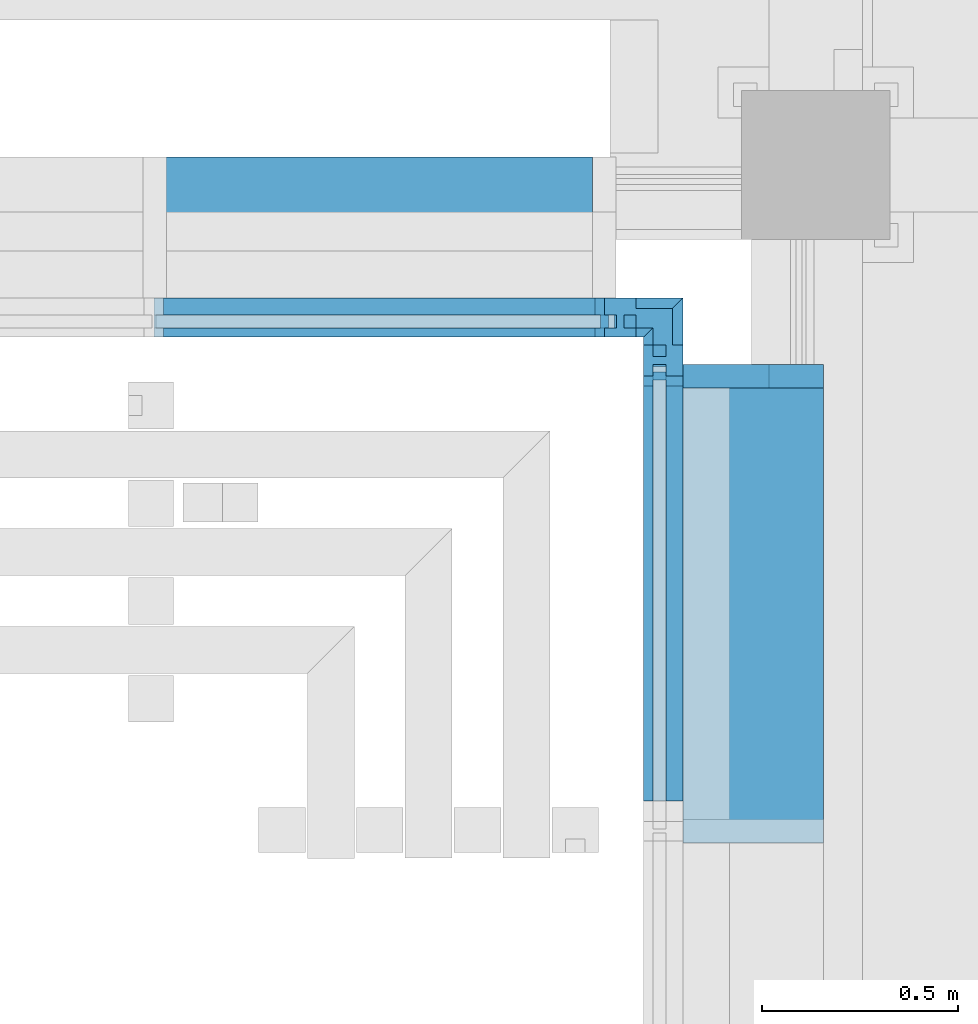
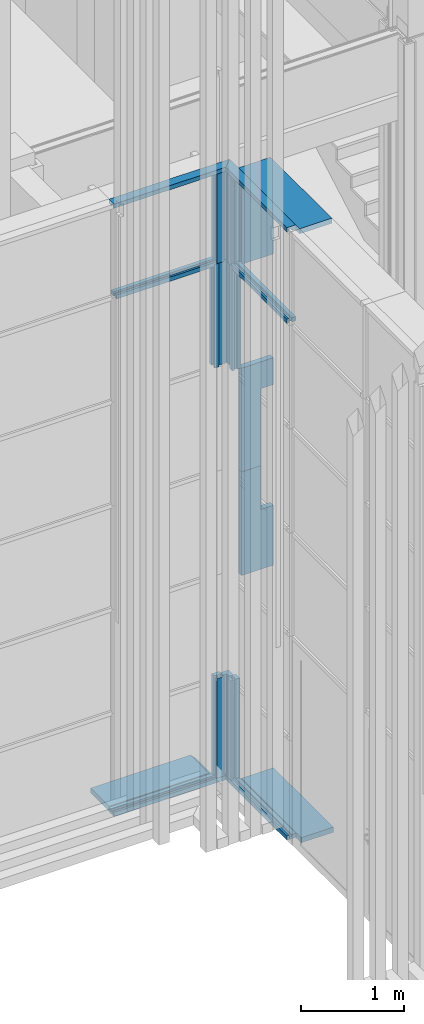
# One storey, part 73 of 260: 15 members, 3 elements without a shape of their own.
"""IFC2X3 building model written with IfcOpenShell, lengths in millimetres."""

from ifc_helpers import new_model, entity, si_unit, converted_unit, derived_unit, money_unit, direction, frame, origin_with_axes, place, context, subcontext, project, spatial, faceted_brep, material, type_object, element, aggregate, save


model = new_model("IFC2X3")

# Units and contexts
model_context = context("Model", 3, precision=0.01, world=origin_with_axes(), true_north=direction((0.0, 1.0)))
body_context = subcontext(model_context, "Body", "Model", "MODEL_VIEW")
ifc_project = project(units=[si_unit("LENGTHUNIT", "METRE", prefix="MILLI"), si_unit("AREAUNIT", "SQUARE_METRE"), si_unit("VOLUMEUNIT", "CUBIC_METRE"), converted_unit("PLANEANGLEUNIT", "DEGREE", entity("IfcPlaneAngleMeasure", 0.0174532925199), si_unit("PLANEANGLEUNIT", "RADIAN"), dimensions=[0, 0, 0, 0, 0, 0, 0]), money_unit("EUR"), converted_unit("TIMEUNIT", "Year", entity("IfcTimeMeasure", 31556926.0), si_unit("TIMEUNIT", "SECOND"), dimensions=[0, 0, 1, 0, 0, 0, 0]), si_unit("MASSUNIT", "GRAM", prefix="KILO"), si_unit("THERMODYNAMICTEMPERATUREUNIT", "DEGREE_CELSIUS"), si_unit("LUMINOUSINTENSITYUNIT", "LUMEN"), si_unit("ENERGYUNIT", "JOULE", prefix="MEGA"), derived_unit("THERMALCONDUCTANCEUNIT", [(si_unit("POWERUNIT", "WATT"), 1), (si_unit("LENGTHUNIT", "METRE"), -1), (si_unit("THERMODYNAMICTEMPERATUREUNIT", "KELVIN"), -1)]), derived_unit("SPECIFICHEATCAPACITYUNIT", [(si_unit("ENERGYUNIT", "JOULE"), 1), (si_unit("MASSUNIT", "GRAM", prefix="KILO"), -1), (si_unit("THERMODYNAMICTEMPERATUREUNIT", "KELVIN"), -1)]), derived_unit("MASSDENSITYUNIT", [(si_unit("MASSUNIT", "GRAM", prefix="KILO"), 1), (si_unit("VOLUMEUNIT", "CUBIC_METRE"), -1)])], contexts=[model_context])

# Site, building, storey
site_placement = place(None, origin_with_axes())
site = spatial("IfcSite", under=ifc_project, at=site_placement, Name="Kolde pst 67a", CompositionType="ELEMENT")
building_placement = place(site_placement, origin_with_axes())
building = spatial("IfcBuilding", under=site, at=building_placement, Name="Riigigümnaasium", CompositionType="ELEMENT")
storey_placement = place(building_placement, origin_with_axes())
storey = spatial("IfcBuildingStorey", under=building, at=storey_placement, Name="1. korrus", CompositionType="ELEMENT", Elevation=0.0)

# Curtain wall, members
curtain_wall_type = type_object("IfcCurtainWallType", Name="Curtain Wall Type", PredefinedType="NOTDEFINED")
curtain_wall_1_placement = place(storey_placement, frame((47829.9854655, 8727.77020058, -0.000749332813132), z_axis=(0.0, 0.0, 1.0), x_axis=(1.0, 0.0, 0.0)))
curtain_wall_1 = element("IfcCurtainWall", 1, at=curtain_wall_1_placement, inside=storey, type_object=curtain_wall_type, Name="KLAASFASSAAD")
ifc_material_1 = material(Name="_METALL - alumiinium")
member_type_1 = type_object("IfcMemberType", Name="Transom Frame 50 x 100", PredefinedType="MEMBER")
member_1_placement = place(curtain_wall_1_placement, frame((-1.26496217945e-05, 13876.0390847, 6150.00074933), z_axis=(-9.1161307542e-10, 1.0, 0.0), x_axis=(0.0, 0.0, 1.0)))
member_1 = element("IfcMember", 2, at=member_1_placement, type_object=member_type_1, material=ifc_material_1, Name="RF RAAM HOR-827", ObjectType="MEMBER", context=body_context, shape_type="Brep", body=[
    faceted_brep([(-5.0, 16.5000009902, 1086.1908601), (-5.0, -16.4999990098, 1086.19086013), (-25.0, -16.4999990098, 1086.19086013), (-25.0, -39.9999990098, 1086.19086015), (25.0, -39.9999990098, 1086.19086015), (25.0, -16.4999990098, 1086.19086013), (5.0, -16.4999990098, 1086.19086013), (5.0, 16.5000009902, 1086.1908601), (25.0, 16.5000009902, 1086.1908601), (25.0, 60.0000009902, 1086.19086006), (-25.0, 60.0000009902, 1086.19086006), (-25.0, 16.5000009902, 1086.1908601), (-5.0, 16.5, -1.5042189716e-08), (-5.0, -16.5, 1.5042189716e-08), (-25.0, -16.5, 1.5042189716e-08), (-25.0, -40.0, 3.64650531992e-08), (25.0, -40.0, 3.64650531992e-08), (25.0, -16.5, 1.5042189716e-08), (5.0, -16.5, 1.5042189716e-08), (5.0, 16.5, -1.5042189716e-08), (25.0, 16.5, -1.5042189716e-08), (25.0, 60.0, -5.46975797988e-08), (-25.0, 60.0, -5.46975797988e-08), (-25.0, 16.5, -1.5042189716e-08)], [[[0, 1, 2, 3, 4, 5, 6, 7, 8, 9, 10, 11]], [[0, 12, 13, 1]], [[1, 13, 14, 2]], [[14, 15, 3, 2]], [[3, 15, 16, 4]], [[17, 5, 4, 16]], [[5, 17, 18, 6]], [[7, 6, 18, 19]], [[8, 7, 19, 20]], [[8, 20, 21, 9]], [[9, 21, 22, 10]], [[11, 10, 22, 23]], [[11, 23, 12, 0]], [[13, 12, 23, 22, 21, 20, 19, 18, 17, 16, 15, 14]]]),
])
member_2_placement = place(curtain_wall_1_placement, frame((-1.37674334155e-05, 15102.2299448, 6150.00074933), z_axis=(-0.999999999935, 1.14108152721e-05, 0.0), x_axis=(0.0, 0.0, 1.0)))
member_2 = element("IfcMember", 3, at=member_2_placement, type_object=member_type_1, material=ifc_material_1, Name="RF RAAM HOR-978", ObjectType="MEMBER", context=body_context, shape_type="Brep", body=[
    faceted_brep([(-5.0, 16.5, 1267.41505055), (-5.0, -16.5, 1267.41505055), (-25.0, -16.5, 1267.41505055), (-25.0, -40.0, 1267.41505055), (25.0, -40.0, 1267.41505055), (25.0, -16.5, 1267.41505055), (5.0, -16.5, 1267.41505055), (5.0, 16.5, 1267.41505055), (25.0, 16.5, 1267.41505055), (25.0, 60.0, 1267.41505055), (-25.0, 60.0, 1267.41505055), (-25.0, 16.5, 1267.41505055), (-5.0, 16.5, 140.0), (-5.0, -16.5, 140.0), (-25.0, -16.5, 140.0), (-25.0, -40.0, 140.0), (25.0, -40.0, 140.0), (25.0, -16.5, 140.0), (5.0, -16.5, 140.0), (5.0, 16.5, 140.0), (25.0, 16.5, 140.0), (25.0, 60.0, 140.0), (-25.0, 60.0, 140.0), (-25.0, 16.5, 140.0)], [[[0, 1, 2, 3, 4, 5, 6, 7, 8, 9, 10, 11]], [[0, 12, 13, 1]], [[1, 13, 14, 2]], [[14, 15, 3, 2]], [[4, 3, 15, 16]], [[17, 5, 4, 16]], [[5, 17, 18, 6]], [[7, 6, 18, 19]], [[8, 7, 19, 20]], [[8, 20, 21, 9]], [[10, 9, 21, 22]], [[11, 10, 22, 23]], [[11, 23, 12, 0]], [[13, 12, 23, 22, 21, 20, 19, 18, 17, 16, 15, 14]]]),
])
member_type_2 = type_object("IfcMemberType", Name="Corner Frame 80 x 100", PredefinedType="MEMBER")
member_3_placement = place(curtain_wall_1_placement, frame((-1.37674334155e-05, 15102.2299448, 0.000285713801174), z_axis=(0.0, 0.0, 1.0), x_axis=(0.707102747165, -0.707110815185, 0.0)))
member_3 = element("IfcMember", 4, at=member_3_placement, type_object=member_type_2, material=ifc_material_1, Name="RF RAAM NURK-952", ObjectType="MEMBER", context=body_context, shape_type="Brep", body=[
    faceted_brep([(-66.1149944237, -89.4486305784, 49.9997142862), (-66.1149944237, -89.4486305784, 1230.00046362), (-89.4493850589, -66.113973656, 1230.00046362), (-89.4493850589, -66.113973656, 49.9997142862), (-51.9727781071, -75.306575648, 49.9997142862), (-51.9727781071, -75.306575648, 1230.00046362), (-75.3071687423, -51.9719187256, 1230.00046362), (-75.3071687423, -51.9719187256, 49.9997142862)], [[[0, 1, 2, 3]], [[4, 5, 1, 0]], [[2, 1, 5, 6]], [[3, 2, 6, 7]], [[3, 7, 4, 0]], [[7, 6, 5, 4]]]),
    faceted_brep([(-110.662709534, -87.3270560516, 49.9997142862), (-110.662709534, -87.3270560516, 1230.00046362), (-141.421679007, -56.567735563, 1230.00046362), (-141.421679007, -56.567735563, 49.9997142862), (-54.0938442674, -30.75883633, 49.9997142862), (-54.0938442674, -30.75883633, 1230.00046362), (-84.852813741, 0.000484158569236, 1230.00046362), (-84.852813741, 0.000484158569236, 49.9997142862)], [[[0, 1, 2, 3]], [[4, 5, 1, 0]], [[2, 1, 5, 6]], [[3, 2, 6, 7]], [[3, 7, 4, 0]], [[7, 6, 5, 4]]]),
    faceted_brep([(-30.7594536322, -54.0934932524, 49.9997142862), (-30.7594536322, -54.0934932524, 1230.00046362), (-14.142539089, -70.7105974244, 1230.00046362), (-14.142539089, -70.7105974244, 49.9997142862), (-87.3283188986, -110.661712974, 49.9997142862), (-87.3283188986, -110.661712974, 1230.00046362), (-70.7114043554, -127.278817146, 1230.00046362), (-70.7114043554, -127.278817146, 49.9997142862)], [[[0, 1, 2, 3]], [[4, 5, 1, 0]], [[2, 1, 5, 6]], [[3, 2, 6, 7]], [[3, 7, 4, 0]], [[7, 6, 5, 4]]]),
    faceted_brep([(35.0020701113, -49.8508283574, 49.9997142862), (35.0020701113, -49.8508283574, 1230.00046362), (30.7594536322, -54.0934932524, 1230.00046362), (30.7594536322, -54.0934932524, 49.9997142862), (0.0, -14.8491576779, 49.9997142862), (0.0, -14.8491576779, 1230.00046362), (-35.0020701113, -49.8508283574, 1230.00046362), (-30.7594536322, -54.0934932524, 1230.00046362), (0.0, -23.3343906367, 1230.00046362), (0.0, -23.3343906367, 49.9997142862), (-30.7594536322, -54.0934932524, 49.9997142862), (-35.0020701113, -49.8508283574, 49.9997142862)], [[[0, 1, 2, 3]], [[4, 5, 1, 0]], [[2, 1, 5, 6, 7, 8]], [[3, 2, 8, 9]], [[3, 9, 10, 11, 4, 0]], [[11, 6, 5, 4]], [[10, 7, 6, 11]], [[9, 8, 7, 10]]]),
    faceted_brep([(30.7594052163, -45.6082118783, 49.9997142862), (30.7594052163, -45.6082118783, 1230.00046362), (57.6293095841, -18.7380008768, 1230.00046362), (57.6293095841, -18.7380008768, 49.9997142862), (35.0020701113, -49.8508283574, 49.9997142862), (35.0020701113, -49.8508283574, 1230.00046362), (66.1145909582, -18.7379524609, 1230.00046362), (0.0, 47.3758840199, 1230.00046362), (-66.1145909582, -18.7379524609, 1230.00046362), (-35.0020701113, -49.8508283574, 1230.00046362), (-30.7594052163, -45.6082118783, 1230.00046362), (-57.6293095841, -18.7380008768, 1230.00046362), (0.0, 38.8906510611, 1230.00046362), (0.0, 38.8906510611, 49.9997142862), (-57.6293095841, -18.7380008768, 49.9997142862), (-30.7594052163, -45.6082118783, 49.9997142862), (-35.0020701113, -49.8508283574, 49.9997142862), (-66.1145909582, -18.7379524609, 49.9997142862), (0.0, 47.3758840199, 49.9997142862), (66.1145909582, -18.7379524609, 49.9997142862)], [[[0, 1, 2, 3]], [[4, 5, 1, 0]], [[2, 1, 5, 6, 7, 8, 9, 10, 11, 12]], [[3, 2, 12, 13]], [[3, 13, 14, 15, 16, 17, 18, 19, 4, 0]], [[19, 6, 5, 4]], [[18, 7, 6, 19]], [[17, 8, 7, 18]], [[16, 9, 8, 17]], [[15, 10, 9, 16]], [[14, 11, 10, 15]], [[13, 12, 11, 14]]]),
    faceted_brep([(57.6293095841, -18.7380008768, 49.9997142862), (57.6293095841, -18.7380008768, 1230.00046362), (30.7594052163, -45.6082118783, 1230.00046362), (30.7594052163, -45.6082118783, 49.9997142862), (0.0, 38.8906510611, 49.9997142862), (0.0, 38.8906510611, 1230.00046362), (-57.6293095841, -18.7380008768, 1230.00046362), (-30.7594052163, -45.6082118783, 1230.00046362), (0.0, -14.8491576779, 1230.00046362), (0.0, -14.8491576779, 49.9997142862), (-30.7594052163, -45.6082118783, 49.9997142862), (-57.6293095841, -18.7380008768, 49.9997142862)], [[[0, 1, 2, 3]], [[4, 5, 1, 0]], [[2, 1, 5, 6, 7, 8]], [[3, 2, 8, 9]], [[3, 9, 10, 11, 4, 0]], [[11, 6, 5, 4]], [[10, 7, 6, 11]], [[9, 8, 7, 10]]]),
    faceted_brep([(51.9727781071, -75.306575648, 49.9997142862), (51.9727781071, -75.306575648, 1230.00046362), (75.3071687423, -51.9719187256, 1230.00046362), (75.3071687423, -51.9719187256, 49.9997142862), (66.1149944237, -89.4486305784, 49.9997142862), (66.1149944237, -89.4486305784, 1230.00046362), (89.4493850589, -66.113973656, 1230.00046362), (89.4493850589, -66.113973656, 49.9997142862)], [[[0, 1, 2, 3]], [[4, 5, 1, 0]], [[2, 1, 5, 6]], [[3, 2, 6, 7]], [[3, 7, 4, 0]], [[7, 6, 5, 4]]]),
    faceted_brep([(54.0938442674, -30.75883633, 49.9997142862), (54.0938442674, -30.75883633, 1230.00046362), (84.852813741, 0.000484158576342, 1230.00046362), (84.852813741, 0.000484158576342, 49.9997142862), (110.662709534, -87.3270560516, 49.9997142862), (110.662709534, -87.3270560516, 1230.00046362), (141.421679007, -56.5677355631, 1230.00046362), (141.421679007, -56.5677355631, 49.9997142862)], [[[0, 1, 2, 3]], [[4, 5, 1, 0]], [[2, 1, 5, 6]], [[3, 2, 6, 7]], [[3, 7, 4, 0]], [[7, 6, 5, 4]]]),
    faceted_brep([(87.3283188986, -110.661712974, 49.9997142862), (87.3283188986, -110.661712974, 1230.00046362), (70.7114043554, -127.278817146, 1230.00046362), (70.7114043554, -127.278817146, 49.9997142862), (30.7594536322, -54.0934932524, 49.9997142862), (30.7594536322, -54.0934932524, 1230.00046362), (14.142539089, -70.7105974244, 1230.00046362), (14.142539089, -70.7105974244, 49.9997142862)], [[[0, 1, 2, 3]], [[4, 5, 1, 0]], [[2, 1, 5, 6]], [[3, 2, 6, 7]], [[3, 7, 4, 0]], [[7, 6, 5, 4]]]),
])
member_4_placement = place(curtain_wall_1_placement, frame((-1.37674334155e-05, 15102.2299448, 6150.00074933), z_axis=(0.0, 0.0, 1.0), x_axis=(0.707102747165, -0.707110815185, 0.0)))
member_4 = element("IfcMember", 5, at=member_4_placement, type_object=member_type_2, material=ifc_material_1, Name="RF RAAM NURK-956", ObjectType="MEMBER", context=body_context, shape_type="Brep", body=[
    faceted_brep([(-89.4493850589, -66.113973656, 0.0), (-66.1149944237, -89.4486305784, 0.0), (-66.1149944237, -89.4486305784, 1059.99919388), (-89.4493850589, -66.113973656, 1059.99919388), (-75.3071687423, -51.9719187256, 0.0), (-51.9727781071, -75.306575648, 0.0), (-51.9727781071, -75.306575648, 1059.99919388), (-75.3071687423, -51.9719187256, 1059.99919388)], [[[0, 1, 2, 3]], [[0, 4, 5, 1]], [[1, 5, 6, 2]], [[3, 2, 6, 7]], [[4, 0, 3, 7]], [[5, 4, 7, 6]]]),
    faceted_brep([(-141.421679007, -56.567735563, 0.0), (-110.662709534, -87.3270560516, 0.0), (-110.662709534, -87.3270560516, 1059.99919388), (-141.421679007, -56.567735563, 1059.99919388), (-84.852813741, 0.000484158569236, 0.0), (-54.0938442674, -30.75883633, 0.0), (-54.0938442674, -30.75883633, 1059.99919388), (-84.852813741, 0.000484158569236, 1059.99919388)], [[[0, 1, 2, 3]], [[0, 4, 5, 1]], [[1, 5, 6, 2]], [[3, 2, 6, 7]], [[4, 0, 3, 7]], [[5, 4, 7, 6]]]),
    faceted_brep([(-14.142539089, -70.7105974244, 0.0), (-30.7594536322, -54.0934932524, 0.0), (-30.7594536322, -54.0934932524, 1059.99919388), (-14.142539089, -70.7105974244, 1059.99919388), (-70.7114043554, -127.278817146, 0.0), (-87.3283188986, -110.661712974, 0.0), (-87.3283188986, -110.661712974, 1059.99919388), (-70.7114043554, -127.278817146, 1059.99919388)], [[[0, 1, 2, 3]], [[0, 4, 5, 1]], [[1, 5, 6, 2]], [[3, 2, 6, 7]], [[4, 0, 3, 7]], [[5, 4, 7, 6]]]),
    faceted_brep([(30.7594536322, -54.0934932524, 0.0), (35.0020701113, -49.8508283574, 0.0), (35.0020701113, -49.8508283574, 1059.99919388), (30.7594536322, -54.0934932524, 1059.99919388), (0.0, -23.3343906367, 0.0), (-30.7594536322, -54.0934932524, 0.0), (-35.0020701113, -49.8508283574, 0.0), (0.0, -14.8491576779, 0.0), (0.0, -14.8491576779, 1059.99919388), (-35.0020701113, -49.8508283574, 1059.99919388), (-30.7594536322, -54.0934932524, 1059.99919388), (0.0, -23.3343906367, 1059.99919388)], [[[0, 1, 2, 3]], [[0, 4, 5, 6, 7, 1]], [[1, 7, 8, 2]], [[3, 2, 8, 9, 10, 11]], [[4, 0, 3, 11]], [[5, 4, 11, 10]], [[6, 5, 10, 9]], [[7, 6, 9, 8]]]),
    faceted_brep([(57.6293095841, -18.7380008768, 0.0), (30.7594052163, -45.6082118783, 0.0), (30.7594052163, -45.6082118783, 1059.99919388), (57.6293095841, -18.7380008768, 1059.99919388), (0.0, 38.8906510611, 0.0), (-57.6293095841, -18.7380008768, 0.0), (-30.7594052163, -45.6082118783, 0.0), (-35.0020701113, -49.8508283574, 0.0), (-66.1145909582, -18.7379524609, 0.0), (0.0, 47.3758840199, 0.0), (66.1145909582, -18.7379524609, 0.0), (35.0020701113, -49.8508283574, 0.0), (35.0020701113, -49.8508283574, 1059.99919388), (66.1145909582, -18.7379524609, 1059.99919388), (0.0, 47.3758840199, 1059.99919388), (-66.1145909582, -18.7379524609, 1059.99919388), (-35.0020701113, -49.8508283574, 1059.99919388), (-30.7594052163, -45.6082118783, 1059.99919388), (-57.6293095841, -18.7380008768, 1059.99919388), (0.0, 38.8906510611, 1059.99919388)], [[[0, 1, 2, 3]], [[0, 4, 5, 6, 7, 8, 9, 10, 11, 1]], [[1, 11, 12, 2]], [[3, 2, 12, 13, 14, 15, 16, 17, 18, 19]], [[4, 0, 3, 19]], [[5, 4, 19, 18]], [[6, 5, 18, 17]], [[7, 6, 17, 16]], [[8, 7, 16, 15]], [[9, 8, 15, 14]], [[10, 9, 14, 13]], [[11, 10, 13, 12]]]),
    faceted_brep([(30.7594052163, -45.6082118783, 0.0), (57.6293095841, -18.7380008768, 0.0), (57.6293095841, -18.7380008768, 1059.99919388), (30.7594052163, -45.6082118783, 1059.99919388), (0.0, -14.8491576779, 0.0), (-30.7594052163, -45.6082118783, 0.0), (-57.6293095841, -18.7380008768, 0.0), (0.0, 38.8906510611, 0.0), (0.0, 38.8906510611, 1059.99919388), (-57.6293095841, -18.7380008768, 1059.99919388), (-30.7594052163, -45.6082118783, 1059.99919388), (0.0, -14.8491576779, 1059.99919388)], [[[0, 1, 2, 3]], [[0, 4, 5, 6, 7, 1]], [[1, 7, 8, 2]], [[3, 2, 8, 9, 10, 11]], [[4, 0, 3, 11]], [[5, 4, 11, 10]], [[6, 5, 10, 9]], [[7, 6, 9, 8]]]),
    faceted_brep([(75.3071687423, -51.9719187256, 0.0), (51.9727781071, -75.306575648, 0.0), (51.9727781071, -75.306575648, 1059.99919388), (75.3071687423, -51.9719187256, 1059.99919388), (89.4493850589, -66.113973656, 0.0), (66.1149944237, -89.4486305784, 0.0), (66.1149944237, -89.4486305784, 1059.99919388), (89.4493850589, -66.113973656, 1059.99919388)], [[[0, 1, 2, 3]], [[0, 4, 5, 1]], [[1, 5, 6, 2]], [[3, 2, 6, 7]], [[4, 0, 3, 7]], [[5, 4, 7, 6]]]),
    faceted_brep([(84.852813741, 0.000484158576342, 0.0), (54.0938442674, -30.75883633, 0.0), (54.0938442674, -30.75883633, 1059.99919388), (84.852813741, 0.000484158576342, 1059.99919388), (141.421679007, -56.5677355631, 0.0), (110.662709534, -87.3270560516, 0.0), (110.662709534, -87.3270560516, 1059.99919388), (141.421679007, -56.5677355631, 1059.99919388)], [[[0, 1, 2, 3]], [[0, 4, 5, 1]], [[1, 5, 6, 2]], [[3, 2, 6, 7]], [[4, 0, 3, 7]], [[5, 4, 7, 6]]]),
    faceted_brep([(70.7114043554, -127.278817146, 0.0), (87.3283188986, -110.661712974, 0.0), (87.3283188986, -110.661712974, 1059.99919388), (70.7114043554, -127.278817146, 1059.99919388), (14.142539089, -70.7105974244, 0.0), (30.7594536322, -54.0934932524, 0.0), (30.7594536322, -54.0934932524, 1059.99919388), (14.142539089, -70.7105974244, 1059.99919388)], [[[0, 1, 2, 3]], [[0, 4, 5, 1]], [[1, 5, 6, 2]], [[3, 2, 6, 7]], [[4, 0, 3, 7]], [[5, 4, 7, 6]]]),
])
member_type_3 = type_object("IfcMemberType", Name="Boundary Frame 50 x 100", PredefinedType="MEMBER")
member_5_placement = place(curtain_wall_1_placement, frame((-1.26496217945e-05, 13876.0390847, 0.0), z_axis=(-9.1161307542e-10, 1.0, 0.0), x_axis=(0.0, 0.0, 1.0)))
member_5 = element("IfcMember", 6, at=member_5_placement, type_object=member_type_3, material=ifc_material_1, Name="RF RAAM SERV-408", ObjectType="MEMBER", context=body_context, shape_type="Brep", body=[
    faceted_brep([(30.0, 16.5000011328, 1242.69067181), (50.0, 16.5000011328, 1242.69067181), (50.0, 60.0000011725, 1286.19017536), (0.0, 60.0000011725, 1286.19017536), (0.0, -39.9999989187, 1186.19131662), (50.0, -39.9999989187, 1186.19131662), (50.0, -16.4999988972, 1209.69104842), (30.0, -16.4999988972, 1209.69104842), (30.0, 16.5, -1.5042189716e-08), (50.0, 16.5, -1.5042189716e-08), (50.0, 60.0, -5.46975797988e-08), (0.0, 60.0, -5.46975797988e-08), (0.0, -40.0, 3.64650531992e-08), (50.0, -40.0, 3.64650531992e-08), (50.0, -16.5, 1.5042189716e-08), (30.0, -16.5, 1.5042189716e-08)], [[[0, 1, 2, 3, 4, 5, 6, 7]], [[0, 8, 9, 1]], [[9, 10, 2, 1]], [[10, 11, 3, 2]], [[11, 12, 4, 3]], [[12, 13, 5, 4]], [[6, 5, 13, 14]], [[14, 15, 7, 6]], [[7, 15, 8, 0]], [[8, 15, 14, 13, 12, 11, 10, 9]]]),
])
member_6_placement = place(curtain_wall_1_placement, frame((-1.37674334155e-05, 15102.2299448, 0.000285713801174), z_axis=(-0.999999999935, 1.14108152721e-05, 0.0), x_axis=(0.0, 0.0, 1.0)))
member_6 = element("IfcMember", 7, at=member_6_placement, type_object=member_type_3, material=ifc_material_1, Name="RF RAAM SERV-589", ObjectType="MEMBER", context=body_context, shape_type="Brep", body=[
    faceted_brep([(30.0, 16.5, 1292.41505055), (50.0, 16.5, 1292.41505055), (50.0, 60.0, 1292.41505055), (0.0, 60.0, 1292.41505055), (0.0, -40.0, 1292.41505055), (50.0, -40.0, 1292.41505055), (50.0, -16.5, 1292.41505055), (30.0, -16.5, 1292.41505055), (30.0, 16.5, -16.4998117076), (50.0, 16.5, -16.4998117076), (50.0, 60.0, -59.9993153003), (0.0, 60.0, -59.9993153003), (0.0, -40.0, 39.9995435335), (50.0, -40.0, 39.9995435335), (50.0, -16.5, 16.4998117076), (30.0, -16.5, 16.4998117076)], [[[0, 1, 2, 3, 4, 5, 6, 7]], [[0, 8, 9, 1]], [[9, 10, 2, 1]], [[2, 10, 11, 3]], [[3, 11, 12, 4]], [[4, 12, 13, 5]], [[6, 5, 13, 14]], [[14, 15, 7, 6]], [[7, 15, 8, 0]], [[8, 15, 14, 13, 12, 11, 10, 9]]]),
])
member_7_placement = place(curtain_wall_1_placement, frame((-1.37674334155e-05, 15102.2299448, 7259.99994321), z_axis=(9.1161307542e-10, -1.0, 0.0), x_axis=(0.0, 0.0, -1.0)))
member_7 = element("IfcMember", 8, at=member_7_placement, type_object=member_type_3, material=ifc_material_1, Name="RF RAAM SERV-571", ObjectType="MEMBER", context=body_context, shape_type="Brep", body=[
    faceted_brep([(30.0, 16.4999988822, 1226.19130573), (50.0, 16.4999988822, 1226.19130573), (50.0, 59.9999988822, 1226.19130577), (0.0, 59.9999988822, 1226.19130577), (0.0, -40.0000011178, 1226.19130568), (50.0, -40.0000011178, 1226.19130568), (50.0, -16.5000011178, 1226.1913057), (30.0, -16.5000011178, 1226.1913057), (30.0, 16.500000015, -16.4998116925), (50.0, 16.500000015, -16.4998116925), (50.0, 60.0000000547, -59.9993152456), (0.0, 60.0000000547, -59.9993152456), (0.0, -40.0000000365, 39.9995434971), (50.0, -40.0000000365, 39.9995434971), (50.0, -16.500000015, 16.4998116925), (30.0, -16.500000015, 16.4998116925)], [[[0, 1, 2, 3, 4, 5, 6, 7]], [[0, 8, 9, 1]], [[9, 10, 2, 1]], [[2, 10, 11, 3]], [[3, 11, 12, 4]], [[4, 12, 13, 5]], [[6, 5, 13, 14]], [[14, 15, 7, 6]], [[7, 15, 8, 0]], [[8, 15, 14, 13, 12, 11, 10, 9]]]),
])
member_8_placement = place(curtain_wall_1_placement, frame((-1292.41506424, 15102.2446923, 7259.99992735), z_axis=(0.999999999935, -1.14108152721e-05, 0.0), x_axis=(0.0, 0.0, -1.0)))
member_8 = element("IfcMember", 9, at=member_8_placement, type_object=member_type_3, material=ifc_material_1, Name="RF RAAM SERV-628", ObjectType="MEMBER", context=body_context, shape_type="Brep", body=[
    faceted_brep([(30.0, 16.5, 1308.91486226), (50.0, 16.5, 1308.91486226), (50.0, 60.0, 1352.41436586), (0.0, 60.0, 1352.41436586), (0.0, -40.0, 1252.41550702), (50.0, -40.0, 1252.41550702), (50.0, -16.5, 1275.91523885), (30.0, -16.5, 1275.91523885), (30.0, 16.5, 0.0), (50.0, 16.5, 0.0), (50.0, 60.0, 0.0), (0.0, 60.0, 0.0), (0.0, -40.0, 0.0), (50.0, -40.0, 0.0), (50.0, -16.5, 0.0), (30.0, -16.5, 0.0)], [[[0, 1, 2, 3, 4, 5, 6, 7]], [[0, 8, 9, 1]], [[9, 10, 2, 1]], [[10, 11, 3, 2]], [[11, 12, 4, 3]], [[12, 13, 5, 4]], [[6, 5, 13, 14]], [[14, 15, 7, 6]], [[7, 15, 8, 0]], [[8, 15, 14, 13, 12, 11, 10, 9]]]),
])
member_type_4 = type_object("IfcMemberType", Name="50 x 100", PredefinedType="MEMBER")
member_9_placement = place(curtain_wall_1_placement, frame((-1.37674334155e-05, 15102.2299448, 4920.00074933), z_axis=(0.0, 0.0, 1.0), x_axis=(0.707102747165, -0.707110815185, 0.0)))
member_9 = element("IfcMember", 10, at=member_9_placement, type_object=member_type_4, material=ifc_material_1, Name="RF RAAM NURK-875", ObjectType="MEMBER", context=body_context, shape_type="Brep", body=[
    faceted_brep([(-117.733817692, -94.3980835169, 0.0), (-94.3994270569, -117.732740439, 0.0), (-94.3994270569, -117.732740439, 1230.0), (-117.733817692, -94.3980835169, 1230.0), (-103.591601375, -80.2560285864, 0.0), (-80.2572107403, -103.590685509, 0.0), (-80.2572107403, -103.590685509, 1230.0), (-103.591601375, -80.2560285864, 1230.0)], [[[0, 1, 2, 3]], [[0, 4, 5, 1]], [[1, 5, 6, 2]], [[3, 2, 6, 7]], [[4, 0, 3, 7]], [[5, 4, 7, 6]]]),
    faceted_brep([(-159.099449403, -74.2453042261, 0.0), (-128.340479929, -105.004624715, 0.0), (-128.340479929, -105.004624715, 1230.0), (-159.099449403, -74.2453042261, 1230.0), (-123.743908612, -38.8901669, 0.0), (-92.984939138, -69.6494873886, 0.0), (-92.984939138, -69.6494873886, 1230.0), (-123.743908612, -38.8901669, 1230.0)], [[[0, 1, 2, 3]], [[0, 4, 5, 1]], [[1, 5, 6, 2]], [[3, 2, 6, 7]], [[4, 0, 3, 7]], [[5, 4, 7, 6]]]),
    faceted_brep([(-53.0336339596, -109.601248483, 0.0), (-69.6505485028, -92.984144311, 0.0), (-69.6505485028, -92.984144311, 1230.0), (-53.0336339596, -109.601248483, 1230.0), (-88.3891747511, -144.956385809, 0.0), (-105.006089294, -128.339281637, 0.0), (-105.006089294, -128.339281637, 1230.0), (-88.3891747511, -144.956385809, 1230.0)], [[[0, 1, 2, 3]], [[0, 4, 5, 1]], [[1, 5, 6, 2]], [[3, 2, 6, 7]], [[4, 0, 3, 7]], [[5, 4, 7, 6]]]),
    faceted_brep([(69.6505485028, -92.984144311, 0.0), (73.893164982, -88.7414794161, 0.0), (73.893164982, -88.7414794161, 1230.0), (69.6505485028, -92.984144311, 1230.0), (0.0, -23.3343906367, 0.0), (-69.6505485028, -92.984144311, 0.0), (-73.893164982, -88.7414794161, 0.0), (0.0, -14.8491576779, 0.0), (0.0, -14.8491576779, 1230.0), (-73.893164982, -88.7414794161, 1230.0), (-69.6505485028, -92.984144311, 1230.0), (0.0, -23.3343906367, 1230.0)], [[[0, 1, 2, 3]], [[0, 4, 5, 6, 7, 1]], [[1, 7, 8, 2]], [[3, 2, 8, 9, 10, 11]], [[4, 0, 3, 11]], [[5, 4, 11, 10]], [[6, 5, 10, 9]], [[7, 6, 9, 8]]]),
    faceted_brep([(96.5204044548, -57.6286519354, 0.0), (69.650500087, -84.4988629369, 0.0), (69.650500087, -84.4988629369, 1230.0), (96.5204044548, -57.6286519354, 1230.0), (0.0, 38.8906510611, 0.0), (-96.5204044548, -57.6286519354, 0.0), (-69.650500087, -84.4988629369, 0.0), (-73.893164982, -88.7414794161, 0.0), (-105.005685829, -57.6286035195, 0.0), (0.0, 47.3758840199, 0.0), (105.005685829, -57.6286035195, 0.0), (73.893164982, -88.7414794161, 0.0), (73.893164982, -88.7414794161, 1230.0), (105.005685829, -57.6286035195, 1230.0), (0.0, 47.3758840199, 1230.0), (-105.005685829, -57.6286035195, 1230.0), (-73.893164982, -88.7414794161, 1230.0), (-69.650500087, -84.4988629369, 1230.0), (-96.5204044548, -57.6286519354, 1230.0), (0.0, 38.8906510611, 1230.0)], [[[0, 1, 2, 3]], [[0, 4, 5, 6, 7, 8, 9, 10, 11, 1]], [[1, 11, 12, 2]], [[3, 2, 12, 13, 14, 15, 16, 17, 18, 19]], [[4, 0, 3, 19]], [[5, 4, 19, 18]], [[6, 5, 18, 17]], [[7, 6, 17, 16]], [[8, 7, 16, 15]], [[9, 8, 15, 14]], [[10, 9, 14, 13]], [[11, 10, 13, 12]]]),
    faceted_brep([(69.650500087, -84.4988629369, 0.0), (96.5204044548, -57.6286519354, 0.0), (96.5204044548, -57.6286519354, 1230.0), (69.650500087, -84.4988629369, 1230.0), (0.0, -14.8491576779, 0.0), (-69.650500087, -84.4988629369, 0.0), (-96.5204044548, -57.6286519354, 0.0), (0.0, 38.8906510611, 0.0), (0.0, 38.8906510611, 1230.0), (-96.5204044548, -57.6286519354, 1230.0), (-69.650500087, -84.4988629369, 1230.0), (0.0, -14.8491576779, 1230.0)], [[[0, 1, 2, 3]], [[0, 4, 5, 6, 7, 1]], [[1, 7, 8, 2]], [[3, 2, 8, 9, 10, 11]], [[4, 0, 3, 11]], [[5, 4, 11, 10]], [[6, 5, 10, 9]], [[7, 6, 9, 8]]]),
    faceted_brep([(103.591601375, -80.2560285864, 0.0), (80.2572107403, -103.590685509, 0.0), (80.2572107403, -103.590685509, 1230.0), (103.591601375, -80.2560285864, 1230.0), (117.733817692, -94.3980835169, 0.0), (94.3994270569, -117.732740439, 0.0), (94.3994270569, -117.732740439, 1230.0), (117.733817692, -94.3980835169, 1230.0)], [[[0, 1, 2, 3]], [[0, 4, 5, 1]], [[1, 5, 6, 2]], [[3, 2, 6, 7]], [[4, 0, 3, 7]], [[5, 4, 7, 6]]]),
    faceted_brep([(123.743908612, -38.8901669, 0.0), (92.984939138, -69.6494873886, 0.0), (92.984939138, -69.6494873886, 1230.0), (123.743908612, -38.8901669, 1230.0), (159.099449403, -74.2453042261, 0.0), (128.340479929, -105.004624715, 0.0), (128.340479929, -105.004624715, 1230.0), (159.099449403, -74.2453042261, 1230.0)], [[[0, 1, 2, 3]], [[0, 4, 5, 1]], [[1, 5, 6, 2]], [[3, 2, 6, 7]], [[4, 0, 3, 7]], [[5, 4, 7, 6]]]),
    faceted_brep([(88.3891747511, -144.956385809, 0.0), (105.006089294, -128.339281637, 0.0), (105.006089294, -128.339281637, 1230.0), (88.3891747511, -144.956385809, 1230.0), (53.0336339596, -109.601248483, 0.0), (69.6505485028, -92.984144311, 0.0), (69.6505485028, -92.984144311, 1230.0), (53.0336339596, -109.601248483, 1230.0)], [[[0, 1, 2, 3]], [[0, 4, 5, 1]], [[1, 5, 6, 2]], [[3, 2, 6, 7]], [[4, 0, 3, 7]], [[5, 4, 7, 6]]]),
])
aggregate(curtain_wall_1, [member_1, member_5, member_3, member_9, member_2, member_6, member_4, member_7, member_8])

# Curtain wall, member
curtain_wall_2_placement = place(storey_placement, frame((23890.0026791, 27220.1832522, -0.000253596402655), z_axis=(0.0, 0.0, 1.0), x_axis=(1.0, 0.0, 0.0)))
curtain_wall_2 = element("IfcCurtainWall", 11, at=curtain_wall_2_placement, inside=storey, type_object=curtain_wall_type, Name="Klaasfassaadi puitkarkass")
ifc_material_2 = material(Name="_KANDETARIND - liimpuit vastavalt EK osale")
member_type_5 = type_object("IfcMemberType", Name="Boundary Frame 60 x 360", PredefinedType="MEMBER")
member_10_placement = place(curtain_wall_2_placement, frame((23829.4203345, -3330.16844509, 0.000124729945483), z_axis=(-1.0, 0.0, 0.0), x_axis=(0.0, 0.0, 1.0)))
member_10 = element("IfcMember", 12, at=member_10_placement, type_object=member_type_5, material=ifc_material_2, Name="RF RAAM SERV-662", ObjectType="MEMBER", context=body_context, shape_type="Brep", body=[
    faceted_brep([(60.0, 0.0, 60.0000002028), (60.0, 360.0, 60.0000002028), (60.0, 360.0, 1180.04327874), (60.0, 0.0, 1180.04327874), (0.0, 0.0, 0.0), (0.0, 360.0, 0.0), (0.0, 360.0, 1180.04327874), (0.0, 0.0, 1180.04327874)], [[[0, 1, 2, 3]], [[1, 0, 4, 5]], [[1, 5, 6, 2]], [[2, 6, 7, 3]], [[4, 0, 3, 7]], [[5, 4, 7, 6]]]),
])
aggregate(curtain_wall_2, [member_10])

# Curtain wall, members
curtain_wall_3_placement = place(storey_placement, frame((47889.9854796, 7778.28071079, -0.000681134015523), z_axis=(0.0, 0.0, 1.0), x_axis=(1.0, 0.0, 0.0)))
curtain_wall_3 = element("IfcCurtainWall", 13, at=curtain_wall_3_placement, inside=storey, type_object=curtain_wall_type, Name="Klaasfassaadi puitkarkass")
member_11_placement = place(curtain_wall_3_placement, frame((-1.71327769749e-05, 15941.6918062, 7259.99997247), z_axis=(1.07471708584e-09, -1.0, 4.41202779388e-08), x_axis=(0.0, -4.41202779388e-08, -1.0)))
member_11 = element("IfcMember", 14, at=member_11_placement, type_object=member_type_5, material=ifc_material_2, Name="RF RAAM SERV-898", ObjectType="MEMBER", context=body_context, shape_type="Brep", body=[
    faceted_brep([(60.0000026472, -6.44888586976e-08, 59.9999947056), (60.0000026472, 359.999999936, 59.9999950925), (60.0000526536, 359.999998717, 1193.41117896), (60.0000526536, -1.28257937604e-06, 1193.41117858), (0.0, 0.0, 0.0), (0.0, 360.0, 3.86897625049e-07), (5.26536325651e-05, 359.999998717, 1193.41118161), (5.26536325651e-05, -1.28257937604e-06, 1193.41118122)], [[[0, 1, 2, 3]], [[1, 0, 4, 5]], [[1, 5, 6, 2]], [[2, 6, 7, 3]], [[4, 0, 3, 7]], [[5, 4, 7, 6]]]),
])
member_12_placement = place(curtain_wall_3_placement, frame((-1.71327769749e-05, 15941.6918062, 6150.00068113), z_axis=(0.0, 0.0, 1.0), x_axis=(1.07471820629e-09, -1.0, 0.0)))
member_12 = element("IfcMember", 15, at=member_12_placement, type_object=member_type_5, material=ifc_material_2, Name="RF RAAM SERV-897", ObjectType="MEMBER", context=body_context, shape_type="Brep", body=[
    faceted_brep([(60.0, 360.0, 0.0), (60.0, 360.0, 1049.99965889), (60.0, 0.0, 1049.99965889), (60.0, 0.0, 0.0), (0.0, 360.0, 0.0), (0.0, 360.0, 1109.99955514), (0.0, 0.0, 1109.99955514), (0.0, 0.0, 0.0)], [[[0, 1, 2, 3]], [[4, 5, 1, 0]], [[1, 5, 6, 2]], [[3, 2, 6, 7]], [[0, 3, 7, 4]], [[7, 6, 5, 4]]]),
])
member_13_placement = place(curtain_wall_3_placement, frame((-1.71327769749e-05, 15941.6918062, 3690.00068113), z_axis=(0.0, 0.0, 1.0), x_axis=(1.07471820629e-09, -1.0, 0.0)))
member_13 = element("IfcMember", 16, at=member_13_placement, type_object=member_type_5, material=ifc_material_2, Name="RF RAAM SERV-895", ObjectType="MEMBER", context=body_context, shape_type="Brep", body=[
    faceted_brep([(60.0, 220.026381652, 480.0), (0.0, 220.026735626, 480.0), (0.0, 220.026735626, 760.0), (60.0, 220.026381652, 760.0), (0.0, 219.999998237, 480.0), (60.0, 219.999998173, 480.0), (0.0, 219.999998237, 0.0), (0.0, 0.0, 0.0), (0.0, 0.0, 1230.0), (0.0, 360.0, 1230.0), (0.0, 360.0, 910.0), (0.0, 220.026735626, 910.0), (0.0, 220.026735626, 907.0), (0.0, 220.026735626, 810.0), (0.0, 220.026735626, 780.0), (60.0, 220.026381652, 780.0), (60.0, 220.026381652, 810.0), (60.0, 220.026381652, 907.0), (60.0, 220.026381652, 910.0), (60.0, 360.0, 910.0), (60.0, 360.0, 1230.0), (60.0, 0.0, 1230.0), (60.0, 0.0, 0.0), (60.0, 219.999998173, 0.0)], [[[0, 1, 2, 3]], [[4, 1, 0, 5]], [[4, 6, 7, 8, 9, 10, 11, 12, 13, 14, 2, 1]], [[3, 2, 14, 15]], [[5, 0, 3, 15, 16, 17, 18, 19, 20, 21, 22, 23]], [[6, 4, 5, 23]], [[6, 23, 22, 7]], [[21, 8, 7, 22]], [[9, 8, 21, 20]], [[20, 19, 10, 9]], [[18, 11, 10, 19]], [[17, 12, 11, 18]], [[16, 13, 12, 17]], [[15, 14, 13, 16]]]),
])
member_14_placement = place(curtain_wall_3_placement, frame((-1.71327769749e-05, 15941.6918062, 2460.00068113), z_axis=(0.0, 0.0, 1.0), x_axis=(1.07471820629e-09, -1.0, 0.0)))
member_14 = element("IfcMember", 17, at=member_14_placement, type_object=member_type_5, material=ifc_material_2, Name="RF RAAM SERV-894", ObjectType="MEMBER", context=body_context, shape_type="Brep", body=[
    faceted_brep([(0.0, 219.999998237, 1230.0), (0.0, 219.999998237, 710.0), (0.0, 360.0, 710.0), (0.0, 360.0, 0.0), (0.0, 0.0, 0.0), (0.0, 0.0, 1230.0), (60.0, 219.999998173, 1230.0), (60.0, 219.999998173, 710.0), (60.0, 360.0, 710.0), (60.0, 360.0, 0.0), (60.0, 0.0, 0.0), (60.0, 0.0, 1230.0)], [[[0, 1, 2, 3, 4, 5]], [[1, 0, 6, 7]], [[8, 2, 1, 7]], [[2, 8, 9, 3]], [[3, 9, 10, 4]], [[4, 10, 11, 5]], [[6, 0, 5, 11]], [[7, 6, 11, 10, 9, 8]]]),
])
member_15_placement = place(curtain_wall_3_placement, frame((-1.58501975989e-05, 14748.2806351, 0.0), z_axis=(-1.07471708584e-09, 1.0, 0.0), x_axis=(0.0, 0.0, 1.0)))
member_15 = element("IfcMember", 18, at=member_15_placement, type_object=member_type_5, material=ifc_material_2, Name="RF RAAM SERV-891", ObjectType="MEMBER", context=body_context, shape_type="Brep", body=[
    faceted_brep([(60.0, 359.999999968, -30.0000003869), (60.0, 360.000001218, 1133.41117073), (60.0, 1.21809051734e-06, 1133.41117112), (60.0, -3.22444293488e-08, -30.0), (0.0, 359.999999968, -30.0000003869), (0.0, 360.000001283, 1193.41117073), (0.0, 1.28257937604e-06, 1193.41117112), (0.0, -3.22444293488e-08, -30.0)], [[[0, 1, 2, 3]], [[4, 5, 1, 0]], [[1, 5, 6, 2]], [[3, 2, 6, 7]], [[0, 3, 7, 4]], [[7, 6, 5, 4]]]),
])
aggregate(curtain_wall_3, [member_11, member_12, member_13, member_14, member_15])

save(model, "model.ifc")
